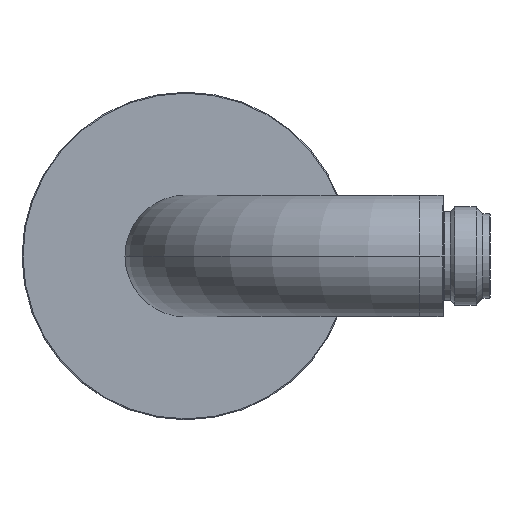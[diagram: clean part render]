
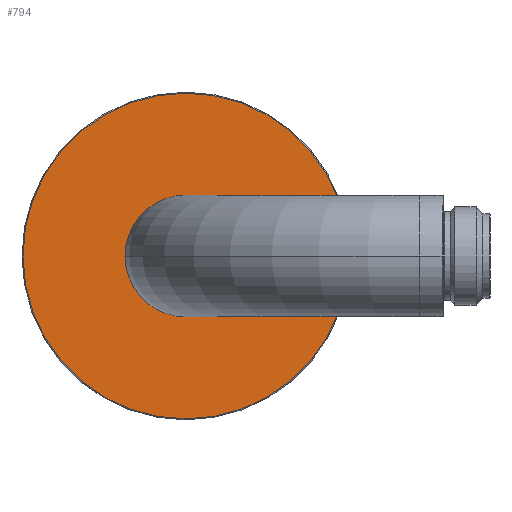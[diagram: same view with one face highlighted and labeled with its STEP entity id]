
A CAD part, left-side view. The second image highlights one B-rep face of the part: STEP entity #794.
In plain terms, the highlighted planar face has unit normal (-1, 0, 0).
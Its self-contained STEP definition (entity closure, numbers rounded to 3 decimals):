
#670=CARTESIAN_POINT('',(-5.,0.,0.));
#671=DIRECTION('',(-1.,0.,0.));
#672=DIRECTION('',(0.,-0.001,-1.));
#673=AXIS2_PLACEMENT_3D('',#670,#671,#672);
#675=CARTESIAN_POINT('',(-5.,0.,0.));
#676=DIRECTION('',(-1.,0.,0.));
#677=DIRECTION('',(0.,0.001,1.));
#678=AXIS2_PLACEMENT_3D('',#675,#676,#677);
#703=CARTESIAN_POINT('',(-5.,-0.052,-34.8));
#704=CARTESIAN_POINT('',(-5.,0.052,34.8));
#705=VERTEX_POINT('',#703);
#706=VERTEX_POINT('',#704);
#784=CARTESIAN_POINT('',(-5.,0.,0.));
#785=DIRECTION('',(-1.,0.,0.));
#786=DIRECTION('',(0.,-0.001,-1.));
#787=AXIS2_PLACEMENT_3D('',#784,#785,#786);
#788=PLANE('',#787);
#790=ORIENTED_EDGE('',*,*,#789,.F.);
#791=ORIENTED_EDGE('',*,*,#774,.F.);
#792=EDGE_LOOP('',(#790,#791));
#793=FACE_OUTER_BOUND('',#792,.F.);
#794=ADVANCED_FACE('',(#793),#788,.T.);
#674=CIRCLE('',#673,34.8);
#679=CIRCLE('',#678,34.8);
#774=EDGE_CURVE('',#706,#705,#679,.T.);
#789=EDGE_CURVE('',#705,#706,#674,.T.);
